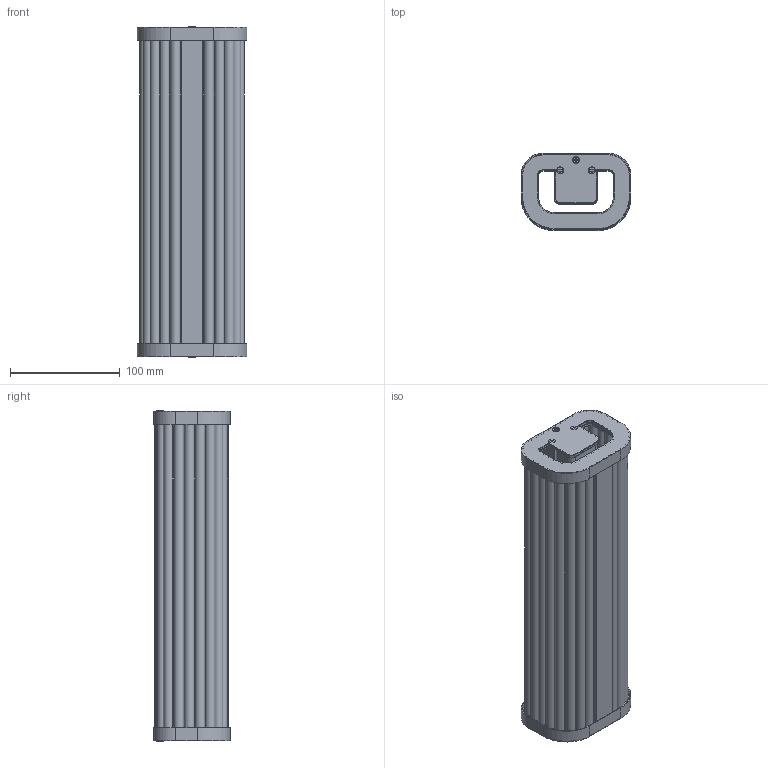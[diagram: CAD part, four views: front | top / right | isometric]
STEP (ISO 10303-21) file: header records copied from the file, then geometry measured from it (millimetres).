
FILE_DESCRIPTION (( 'STEP AP214' ), '1' );
FILE_NAME ('DIVINO-A4005070.STEP', '2026-01-13T10:26:20', ( '' ), ( '' ), 'SwSTEP 2.0', 'SolidWorks 2025', '' );
FILE_SCHEMA (( 'AUTOMOTIVE_DESIGN' ));
Length unit declared in the file: millimetre
Products named in the file (12): eBom-FreeParts.stp; 5.5.stp; DIVINO - A4005070.stp; 图块 03-0.stp; 图块 03.stp; www.stp; 图块 03-1.stp; DIVINO-A4005070; 图块 03-3.stp; Document.stp; 图块 10.stp; 图块 03-2.stp
Assembly tree (12 placements, depth 5):
  5.5.stp
  图块 03-0.stp
  DIVINO-A4005070
    DIVINO - A4005070.stp
      Document.stp
        图块 03.stp
          www.stp
          图块 03-1.stp
          图块 03-3.stp
        图块 10.stp  x5
      eBom-FreeParts.stp
  图块 03-2.stp
Bounding box: 100 x 70 x 301.2 mm (x, y, z)
Volume: 13994.8 mm3; surface area: 430653.6 mm2
Topology: 8 solids, 52 shells, 1099 faces, 2901 edges, 1911 vertices
Faces by surface type: cylinder 530, plane 499, bspline 70
Entity records: 31975 total; most frequent: CARTESIAN_POINT 13654, ORIENTED_EDGE 5089, EDGE_CURVE 2549, DIRECTION 1864, VERTEX_POINT 1683, B_SPLINE_CURVE_WITH_KNOTS 1537, EDGE_LOOP 1000, FACE_OUTER_BOUND 967
